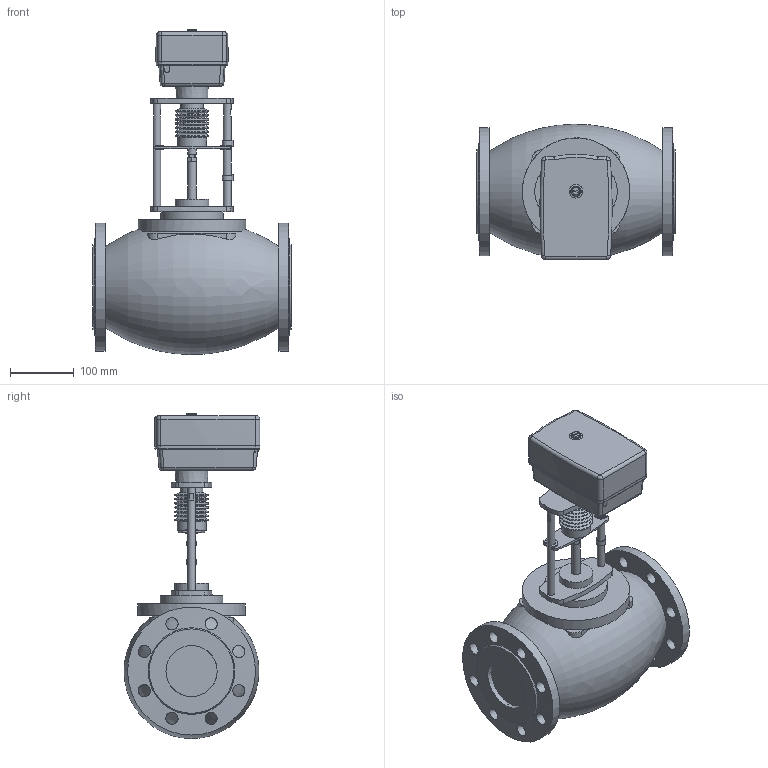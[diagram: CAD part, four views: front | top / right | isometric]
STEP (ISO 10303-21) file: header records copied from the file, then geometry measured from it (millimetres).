
FILE_DESCRIPTION(/* description */ ('Unknown'),/* implementation_level */ '2;1');
FILE_NAME(/* name */ 'Клапан TRV-080-110',/* time_stamp */ '2021-12-06T16:23:21+03:00',/* author */ ('Unknown'),/* organization */ ('Unknown'),/* preprocessor_version */ 'ST-DEVELOPER v16.7',/* originating_system */ 'DEX',/* authorisation */ $);
FILE_SCHEMA (('CONFIG_CONTROL_DESIGN','AUTOMOTIVE_DESIGN {1 0 10303 214 3 1 1}'));
Length unit declared in the file: millimetre
Products named in the file (1): 抔黽鳧 TRV-080-110
Bounding box: 310 x 212.51 x 508.44 mm (x, y, z)
Volume: 10430046.7 mm3; surface area: 460999.1 mm2
Topology: 1 solids, 2 shells, 374 faces, 978 edges, 628 vertices
Faces by surface type: plane 184, cylinder 104, torus 35, cone 35, bspline 12, sphere 4
Full cylindrical faces by diameter (mm): 12.002 x4, 13 x2, 15 x1, 19 x16, 35.098 x1, 45.4 x1, 52.774 x1, 98 x1, 168 x1, 200 x2
Entity records: 14861 total; most frequent: CARTESIAN_POINT 3484, DIRECTION 1831, ORIENTED_EDGE 1720, EDGE_CURVE 860, AXIS2_PLACEMENT_3D 710, VERTEX_POINT 578, EDGE_LOOP 504, FACE_BOUND 504
